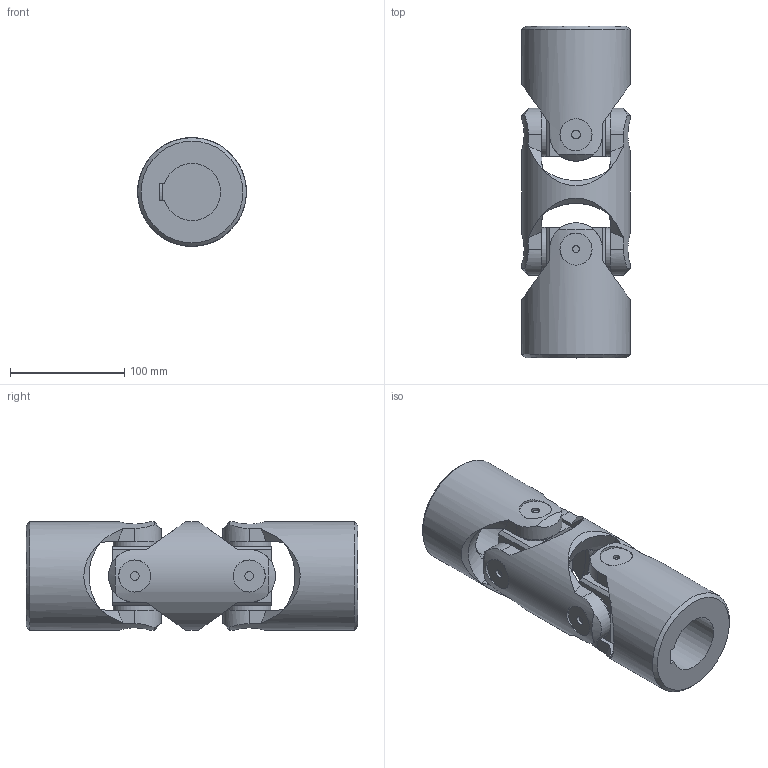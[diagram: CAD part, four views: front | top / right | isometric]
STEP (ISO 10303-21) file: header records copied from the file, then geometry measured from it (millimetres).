
FILE_DESCRIPTION(/* description */ (''),/* implementation_level */ '2;1');
FILE_NAME(/* name */ '\\SRV2016\Societa\Stefano\Disegni 3D\00Catalogo 3D\02Doppi GD-GBD\SG0D502C.stp',/* time_stamp */ '2021-11-23T16:04:29+01:00',/* author */ ('acquisti'),/* organization */ (''),/* preprocessor_version */ 'ST-DEVELOPER v15.6',/* originating_system */ 'Autodesk Inventor 2015',/* authorisation */ '');
FILE_SCHEMA (('AUTOMOTIVE_DESIGN { 1 0 10303 214 3 1 1 }'));
Length unit declared in the file: millimetre
Products named in the file (4): 9G MOD; 9G SFE; 9G MOC; Ø95_9GD-00_SG0D5000
Assembly tree (5 placements, depth 2):
  Ø95_9GD-00_SG0D5000
    9G MOD
    9G SFE  x2
    9G MOC  x2
Bounding box: 95 x 290 x 95 mm (x, y, z)
Volume: 1244695.1 mm3; surface area: 177131.3 mm2
Topology: 5 solids, 5 shells, 159 faces, 397 edges, 272 vertices
Faces by surface type: plane 76, cylinder 49, cone 30, torus 4
Full cylindrical faces by diameter (mm): 6 x4, 7.494 x4, 28 x8, 38 x8, 56 x2, 95 x3
Entity records: 3977 total; most frequent: CARTESIAN_POINT 1551, ORIENTED_EDGE 476, DIRECTION 465, EDGE_CURVE 238, AXIS2_PLACEMENT_3D 202, VERTEX_POINT 176, EDGE_LOOP 150, FACE_OUTER_BOUND 107
